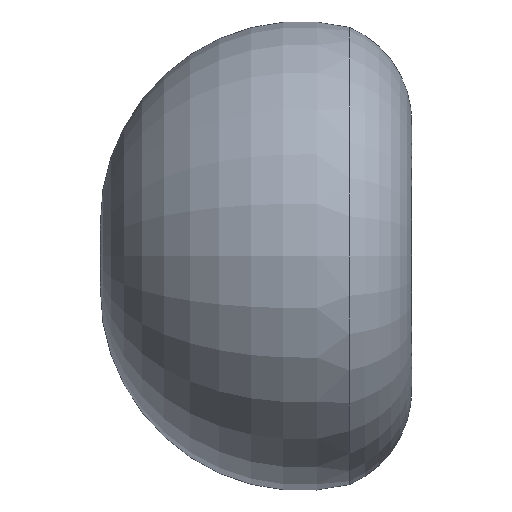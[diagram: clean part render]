
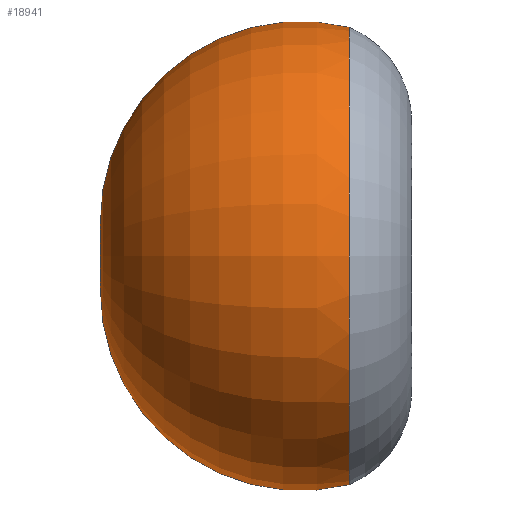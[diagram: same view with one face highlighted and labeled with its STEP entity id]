
A CAD part, left-side view. The second image highlights one B-rep face of the part: STEP entity #18941.
In plain terms, the highlighted toroidal (fillet/blend) face has major radius 400 mm and minor radius 2337.75 mm.
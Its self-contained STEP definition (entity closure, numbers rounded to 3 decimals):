
#18843 = VERTEX_POINT ( 'NONE', #194291 ) ;
#18844 = VERTEX_POINT ( 'NONE', #194290 ) ;
#18941 = ADVANCED_FACE ( 'NONE', ( #194462 ), #194461, .T. ) ;
#18942 = EDGE_LOOP ( 'NONE', ( #19036, #19037, #19040 ) ) ;
#18962 = EDGE_CURVE ( 'NONE', #18844, #18843, #194527, .T. ) ;
#19008 = EDGE_CURVE ( 'NONE', #19010, #18843, #194651, .T. ) ;
#19010 = VERTEX_POINT ( 'NONE', #194646 ) ;
#19015 = EDGE_CURVE ( 'NONE', #19010, #18844, #194639, .T. ) ;
#19036 = ORIENTED_EDGE ( 'NONE', *, *, #19015, .F. ) ;
#19037 = ORIENTED_EDGE ( 'NONE', *, *, #19008, .T. ) ;
#19040 = ORIENTED_EDGE ( 'NONE', *, *, #18962, .F. ) ;
#194290 = CARTESIAN_POINT ( 'NONE',  ( 0., 264.163, 2668.235 ) ) ;
#194291 = CARTESIAN_POINT ( 'NONE',  ( 0., 264.163, -2668.235 ) ) ;
#194456 = DIRECTION ( 'NONE',  ( 0., 0., -1. ) ) ;
#194457 = DIRECTION ( 'NONE',  ( 0., -1., 0. ) ) ;
#194458 = CARTESIAN_POINT ( 'NONE',  ( 0., 830., 0. ) ) ;
#194459 = AXIS2_PLACEMENT_3D ( 'NONE', #194458, #194457, #194456 ) ;
#194461 = TOROIDAL_SURFACE ( 'NONE', #194459, 400., 2337.747 ) ;
#194462 = FACE_OUTER_BOUND ( 'NONE', #18942, .T. ) ;
#194523 = DIRECTION ( 'NONE',  ( 0., 0., -1. ) ) ;
#194524 = DIRECTION ( 'NONE',  ( 0., -1., 0. ) ) ;
#194525 = CARTESIAN_POINT ( 'NONE',  ( 0., 264.163, 0. ) ) ;
#194526 = AXIS2_PLACEMENT_3D ( 'NONE', #194525, #194524, #194523 ) ;
#194527 = CIRCLE ( 'NONE', #194526, 2668.235 ) ;
#194636 = DIRECTION ( 'NONE',  ( 0., 0., -1. ) ) ;
#194637 = DIRECTION ( 'NONE',  ( 1., 0., 0. ) ) ;
#194638 = AXIS2_PLACEMENT_3D ( 'NONE', #194645, #194637, #194636 ) ;
#194639 = CIRCLE ( 'NONE', #194638, 2337.747 ) ;
#194645 = CARTESIAN_POINT ( 'NONE',  ( 0., 830., 400. ) ) ;
#194646 = CARTESIAN_POINT ( 'NONE',  ( 0., 3133.272, 0. ) ) ;
#194647 = DIRECTION ( 'NONE',  ( 0., 0., 1. ) ) ;
#194648 = DIRECTION ( 'NONE',  ( -1., 0., 0. ) ) ;
#194649 = CARTESIAN_POINT ( 'NONE',  ( 0., 830., -400. ) ) ;
#194650 = AXIS2_PLACEMENT_3D ( 'NONE', #194649, #194648, #194647 ) ;
#194651 = CIRCLE ( 'NONE', #194650, 2337.747 ) ;
